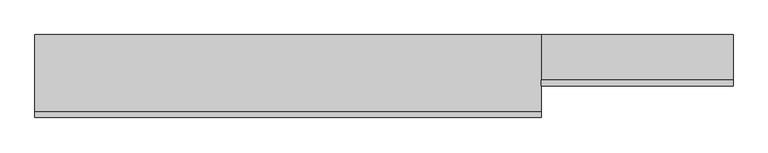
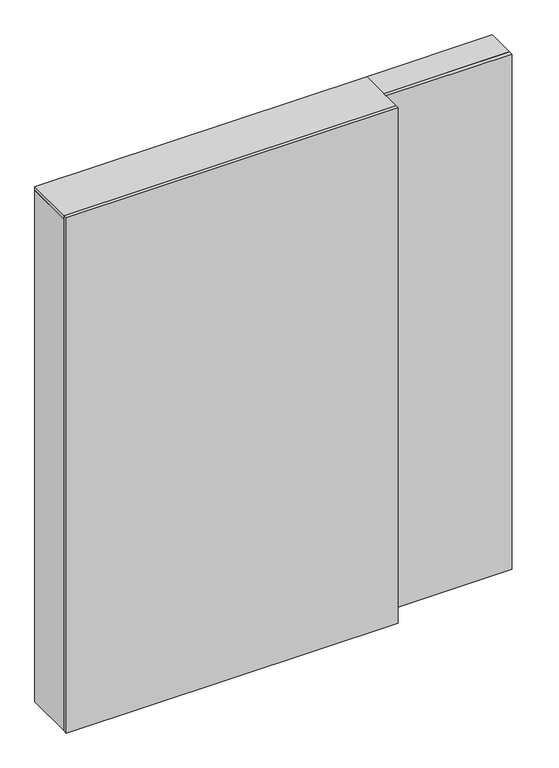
"""IFC4 building model written with IfcOpenShell, lengths in millimetres: furniture geometry, C20 Estanteria grande : C20.1 Estanteria grande 26."""

from ifc_helpers import new_model, si_unit, frame, origin, place, context, project, spatial, polyline, outline, extrude, source, transform, mapped, element, save


def furniture_d7d46065(model_context):
    return source(origin(), model_context, "Body", "SweptSolid", [
        extrude(outline(polyline([(537.2003264, 0.0), (-1047.7996736, 0.0), (-1047.7996736, 18.0), (537.2003264, 18.0), (537.2003264, 0.0)])), frame((0.0, 0.0, 20.0), z_axis=(0.0, 0.0, 1.0), x_axis=(1.0, 0.0, 0.0)), (0.0, 0.0, 1.0), 2600.0),
        extrude(outline(polyline([(1137.2003264, 100.0), (537.2003264, 100.0), (537.2003264, 118.0), (1137.2003264, 118.0), (1137.2003264, 100.0)])), frame((0.0, 0.0, 20.0), z_axis=(0.0, 0.0, 1.0), x_axis=(1.0, 0.0, 0.0)), (0.0, 0.0, 1.0), 2600.0),
        extrude(outline(polyline([(519.2003264, 260.0), (519.2003264, 18.0), (14.8669931, 18.0), (14.8669931, 260.0), (519.2003264, 260.0)])), frame((0.0, 0.0, 789.6), z_axis=(0.0, 0.0, 1.0), x_axis=(1.0, 0.0, 0.0)), (0.0, 0.0, 1.0), 18.0),
        extrude(outline(polyline([(519.2003264, 260.0), (519.2003264, 18.0), (14.8669931, 18.0), (14.8669931, 260.0), (519.2003264, 260.0)])), frame((0.0, 0.0, 1159.2), z_axis=(0.0, 0.0, 1.0), x_axis=(1.0, 0.0, 0.0)), (0.0, 0.0, 1.0), 18.0),
        extrude(outline(polyline([(519.2003264, 260.0), (519.2003264, 18.0), (14.8669931, 18.0), (14.8669931, 260.0), (519.2003264, 260.0)])), frame((0.0, 0.0, 1528.8), z_axis=(0.0, 0.0, 1.0), x_axis=(1.0, 0.0, 0.0)), (0.0, 0.0, 1.0), 18.0),
        extrude(outline(polyline([(-3.1330069, 260.0), (-3.1330069, 18.0), (-507.4663402, 18.0), (-507.4663402, 260.0), (-3.1330069, 260.0)])), frame((0.0, 0.0, 789.6), z_axis=(0.0, 0.0, 1.0), x_axis=(1.0, 0.0, 0.0)), (0.0, 0.0, 1.0), 18.0),
        extrude(outline(polyline([(-3.1330069, 260.0), (-3.1330069, 18.0), (-507.4663402, 18.0), (-507.4663402, 260.0), (-3.1330069, 260.0)])), frame((0.0, 0.0, 1159.2), z_axis=(0.0, 0.0, 1.0), x_axis=(1.0, 0.0, 0.0)), (0.0, 0.0, 1.0), 18.0),
        extrude(outline(polyline([(-3.1330069, 260.0), (-3.1330069, 18.0), (-507.4663402, 18.0), (-507.4663402, 260.0), (-3.1330069, 260.0)])), frame((0.0, 0.0, 1528.8), z_axis=(0.0, 0.0, 1.0), x_axis=(1.0, 0.0, 0.0)), (0.0, 0.0, 1.0), 18.0),
        extrude(outline(polyline([(-525.4663402, 260.0), (-525.4663402, 18.0), (-1029.7996736, 18.0), (-1029.7996736, 260.0), (-525.4663402, 260.0)])), frame((0.0, 0.0, 789.6), z_axis=(0.0, 0.0, 1.0), x_axis=(1.0, 0.0, 0.0)), (0.0, 0.0, 1.0), 18.0),
        extrude(outline(polyline([(-525.4663402, 260.0), (-525.4663402, 18.0), (-1029.7996736, 18.0), (-1029.7996736, 260.0), (-525.4663402, 260.0)])), frame((0.0, 0.0, 1159.2), z_axis=(0.0, 0.0, 1.0), x_axis=(1.0, 0.0, 0.0)), (0.0, 0.0, 1.0), 18.0),
        extrude(outline(polyline([(-525.4663402, 260.0), (-525.4663402, 18.0), (-1029.7996736, 18.0), (-1029.7996736, 260.0), (-525.4663402, 260.0)])), frame((0.0, 0.0, 1528.8), z_axis=(0.0, 0.0, 1.0), x_axis=(1.0, 0.0, 0.0)), (0.0, 0.0, 1.0), 18.0),
        extrude(outline(polyline([(519.2003264, 260.0), (519.2003264, 18.0), (14.8669931, 18.0), (14.8669931, 260.0), (519.2003264, 260.0)])), frame((0.0, 0.0, 1898.4), z_axis=(0.0, 0.0, 1.0), x_axis=(1.0, 0.0, 0.0)), (0.0, 0.0, 1.0), 18.0),
        extrude(outline(polyline([(519.2003264, 260.0), (519.2003264, 18.0), (14.8669931, 18.0), (14.8669931, 260.0), (519.2003264, 260.0)])), frame((0.0, 0.0, 2268.0), z_axis=(0.0, 0.0, 1.0), x_axis=(1.0, 0.0, 0.0)), (0.0, 0.0, 1.0), 18.0),
        extrude(outline(polyline([(-3.1330069, 260.0), (-3.1330069, 18.0), (-507.4663402, 18.0), (-507.4663402, 260.0), (-3.1330069, 260.0)])), frame((0.0, 0.0, 1898.4), z_axis=(0.0, 0.0, 1.0), x_axis=(1.0, 0.0, 0.0)), (0.0, 0.0, 1.0), 18.0),
        extrude(outline(polyline([(-3.1330069, 260.0), (-3.1330069, 18.0), (-507.4663402, 18.0), (-507.4663402, 260.0), (-3.1330069, 260.0)])), frame((0.0, 0.0, 2268.0), z_axis=(0.0, 0.0, 1.0), x_axis=(1.0, 0.0, 0.0)), (0.0, 0.0, 1.0), 18.0),
        extrude(outline(polyline([(-525.4663402, 260.0), (-525.4663402, 18.0), (-1029.7996736, 18.0), (-1029.7996736, 260.0), (-525.4663402, 260.0)])), frame((0.0, 0.0, 1898.4), z_axis=(0.0, 0.0, 1.0), x_axis=(1.0, 0.0, 0.0)), (0.0, 0.0, 1.0), 18.0),
        extrude(outline(polyline([(-525.4663402, 260.0), (-525.4663402, 18.0), (-1029.7996736, 18.0), (-1029.7996736, 260.0), (-525.4663402, 260.0)])), frame((0.0, 0.0, 2268.0), z_axis=(0.0, 0.0, 1.0), x_axis=(1.0, 0.0, 0.0)), (0.0, 0.0, 1.0), 18.0),
        extrude(outline(polyline([(537.2003264, 260.0), (537.2003264, 18.0), (-1047.7996736, 18.0), (-1047.7996736, 260.0), (537.2003264, 260.0)])), frame((0.0, 0.0, 2602.0), z_axis=(0.0, 0.0, 1.0), x_axis=(1.0, 0.0, 0.0)), (0.0, 0.0, 1.0), 18.0),
        extrude(outline(polyline([(519.2003264, 260.0), (519.2003264, 18.0), (14.8669931, 18.0), (14.8669931, 260.0), (519.2003264, 260.0)])), frame((0.0, 0.0, 420.0), z_axis=(0.0, 0.0, 1.0), x_axis=(1.0, 0.0, 0.0)), (0.0, 0.0, 1.0), 18.0),
        extrude(outline(polyline([(-3.1330069, 260.0), (-3.1330069, 18.0), (-507.4663402, 18.0), (-507.4663402, 260.0), (-3.1330069, 260.0)])), frame((0.0, 0.0, 420.0), z_axis=(0.0, 0.0, 1.0), x_axis=(1.0, 0.0, 0.0)), (0.0, 0.0, 1.0), 18.0),
        extrude(outline(polyline([(-525.4663402, 260.0), (-525.4663402, 18.0), (-1029.7996736, 18.0), (-1029.7996736, 260.0), (-525.4663402, 260.0)])), frame((0.0, 0.0, 420.0), z_axis=(0.0, 0.0, 1.0), x_axis=(1.0, 0.0, 0.0)), (0.0, 0.0, 1.0), 18.0),
        extrude(outline(polyline([(519.2003264, 260.0), (519.2003264, 18.0), (14.8669931, 18.0), (14.8669931, 260.0), (519.2003264, 260.0)])), frame((0.0, 0.0, 170.0), z_axis=(0.0, 0.0, 1.0), x_axis=(1.0, 0.0, 0.0)), (0.0, 0.0, 1.0), 18.0),
        extrude(outline(polyline([(-3.1330069, 260.0), (-3.1330069, 18.0), (-507.4663402, 18.0), (-507.4663402, 260.0), (-3.1330069, 260.0)])), frame((0.0, 0.0, 170.0), z_axis=(0.0, 0.0, 1.0), x_axis=(1.0, 0.0, 0.0)), (0.0, 0.0, 1.0), 18.0),
        extrude(outline(polyline([(-525.4663402, 260.0), (-525.4663402, 18.0), (-1029.7996736, 18.0), (-1029.7996736, 260.0), (-525.4663402, 260.0)])), frame((0.0, 0.0, 170.0), z_axis=(0.0, 0.0, 1.0), x_axis=(1.0, 0.0, 0.0)), (0.0, 0.0, 1.0), 18.0),
        extrude(outline(polyline([(1119.2003264, 260.0), (1119.2003264, 118.0), (537.2003264, 118.0), (537.2003264, 260.0), (1119.2003264, 260.0)])), frame((0.0, 0.0, 789.6), z_axis=(0.0, 0.0, 1.0), x_axis=(1.0, 0.0, 0.0)), (0.0, 0.0, 1.0), 18.0),
        extrude(outline(polyline([(1119.2003264, 260.0), (1119.2003264, 118.0), (537.2003264, 118.0), (537.2003264, 260.0), (1119.2003264, 260.0)])), frame((0.0, 0.0, 1159.2), z_axis=(0.0, 0.0, 1.0), x_axis=(1.0, 0.0, 0.0)), (0.0, 0.0, 1.0), 18.0),
        extrude(outline(polyline([(1119.2003264, 260.0), (1119.2003264, 118.0), (537.2003264, 118.0), (537.2003264, 260.0), (1119.2003264, 260.0)])), frame((0.0, 0.0, 1528.8), z_axis=(0.0, 0.0, 1.0), x_axis=(1.0, 0.0, 0.0)), (0.0, 0.0, 1.0), 18.0),
        extrude(outline(polyline([(1119.2003264, 260.0), (1119.2003264, 118.0), (537.2003264, 118.0), (537.2003264, 260.0), (1119.2003264, 260.0)])), frame((0.0, 0.0, 1898.4), z_axis=(0.0, 0.0, 1.0), x_axis=(1.0, 0.0, 0.0)), (0.0, 0.0, 1.0), 18.0),
        extrude(outline(polyline([(1119.2003264, 260.0), (1119.2003264, 118.0), (537.2003264, 118.0), (537.2003264, 260.0), (1119.2003264, 260.0)])), frame((0.0, 0.0, 2268.0), z_axis=(0.0, 0.0, 1.0), x_axis=(1.0, 0.0, 0.0)), (0.0, 0.0, 1.0), 18.0),
        extrude(outline(polyline([(1137.2003264, 260.0), (1137.2003264, 118.0), (537.2003264, 118.0), (537.2003264, 260.0), (1137.2003264, 260.0)])), frame((0.0, 0.0, 2602.0), z_axis=(0.0, 0.0, 1.0), x_axis=(1.0, 0.0, 0.0)), (0.0, 0.0, 1.0), 18.0),
        extrude(outline(polyline([(1119.2003264, 260.0), (1119.2003264, 118.0), (537.2003264, 118.0), (537.2003264, 260.0), (1119.2003264, 260.0)])), frame((0.0, 0.0, 420.0), z_axis=(0.0, 0.0, 1.0), x_axis=(1.0, 0.0, 0.0)), (0.0, 0.0, 1.0), 18.0),
        extrude(outline(polyline([(1119.2003264, 260.0), (1119.2003264, 118.0), (537.2003264, 118.0), (537.2003264, 260.0), (1119.2003264, 260.0)])), frame((0.0, 0.0, 170.0), z_axis=(0.0, 0.0, 1.0), x_axis=(1.0, 0.0, 0.0)), (0.0, 0.0, 1.0), 18.0),
        extrude(outline(polyline([(1137.2003264, 260.0), (1137.2003264, 118.0), (1119.2003264, 118.0), (1119.2003264, 260.0), (1137.2003264, 260.0)])), frame((0.0, 0.0, 20.0), z_axis=(0.0, 0.0, 1.0), x_axis=(1.0, 0.0, 0.0)), (0.0, 0.0, 1.0), 2582.0),
        extrude(outline(polyline([(-1047.7996736, 18.0), (-1047.7996736, 260.0), (-1029.7996736, 260.0), (-1029.7996736, 18.0), (-1047.7996736, 18.0)])), frame((0.0, 0.0, 20.0), z_axis=(0.0, 0.0, 1.0), x_axis=(1.0, 0.0, 0.0)), (0.0, 0.0, 1.0), 2582.0),
        extrude(outline(polyline([(-525.4663402, 18.0), (-525.4663402, 260.0), (-507.4663402, 260.0), (-507.4663402, 18.0), (-525.4663402, 18.0)])), frame((0.0, 0.0, 20.0), z_axis=(0.0, 0.0, 1.0), x_axis=(1.0, 0.0, 0.0)), (0.0, 0.0, 1.0), 2582.0),
        extrude(outline(polyline([(-3.1330069, 18.0), (-3.1330069, 260.0), (14.8669931, 260.0), (14.8669931, 18.0), (-3.1330069, 18.0)])), frame((0.0, 0.0, 20.0), z_axis=(0.0, 0.0, 1.0), x_axis=(1.0, 0.0, 0.0)), (0.0, 0.0, 1.0), 2582.0),
        extrude(outline(polyline([(519.2003264, 18.0), (519.2003264, 260.0), (537.2003264, 260.0), (537.2003264, 18.0), (519.2003264, 18.0)])), frame((0.0, 0.0, 20.0), z_axis=(0.0, 0.0, 1.0), x_axis=(1.0, 0.0, 0.0)), (0.0, 0.0, 1.0), 2582.0),
        extrude(outline(polyline([(-525.4663402, 260.0), (-525.4663402, 248.0), (-1029.7996736, 248.0), (-1029.7996736, 260.0), (-525.4663402, 260.0)])), frame((0.0, 0.0, 20.0), z_axis=(0.0, 0.0, 1.0), x_axis=(1.0, 0.0, 0.0)), (0.0, 0.0, 1.0), 150.0),
        extrude(outline(polyline([(-3.1330069, 260.0), (-3.1330069, 248.0), (-507.4663402, 248.0), (-507.4663402, 260.0), (-3.1330069, 260.0)])), frame((0.0, 0.0, 20.0), z_axis=(0.0, 0.0, 1.0), x_axis=(1.0, 0.0, 0.0)), (0.0, 0.0, 1.0), 150.0),
        extrude(outline(polyline([(519.2003264, 260.0), (519.2003264, 248.0), (14.8669931, 248.0), (14.8669931, 260.0), (519.2003264, 260.0)])), frame((0.0, 0.0, 20.0), z_axis=(0.0, 0.0, 1.0), x_axis=(1.0, 0.0, 0.0)), (0.0, 0.0, 1.0), 150.0),
        extrude(outline(polyline([(1119.2003264, 260.0), (1119.2003264, 248.0), (537.2003264, 248.0), (537.2003264, 260.0), (1119.2003264, 260.0)])), frame((0.0, 0.0, 20.0), z_axis=(0.0, 0.0, 1.0), x_axis=(1.0, 0.0, 0.0)), (0.0, 0.0, 1.0), 150.0),
    ])


if __name__ == "__main__":
    model = new_model("IFC4")
    model_context = context("Model", 3, world=origin())
    ifc_project = project(units=[si_unit("LENGTHUNIT", "METRE", prefix="MILLI")], contexts=[model_context])
    site = spatial("IfcSite", under=ifc_project)
    building = spatial("IfcBuilding", under=site)
    placement = place(None, origin())
    furniture_shape = furniture_d7d46065(model_context)
    element("IfcFurniture", 1, ObjectType="C20 Estanteria grande : C20.1 Estanteria grande 26", at=placement, inside=building, context=model_context, shape_type="MappedRepresentation", body=[
        mapped(furniture_shape, transform((0.0, 0.0, 0.0), x_axis=(1.0, 0.0, 0.0), y_axis=(0.0, 1.0, 0.0), z_axis=(0.0, 0.0, 1.0))),
    ])
    save(model, "model.ifc")
